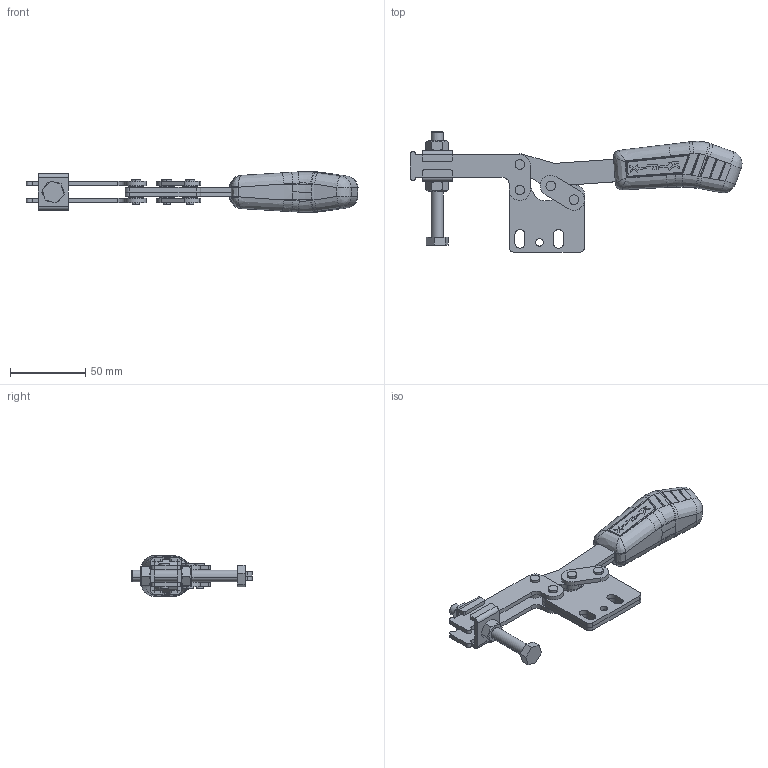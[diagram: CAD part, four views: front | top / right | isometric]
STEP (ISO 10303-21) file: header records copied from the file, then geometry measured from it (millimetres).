
FILE_DESCRIPTION (( 'STEP AP203' ), '1' );
FILE_NAME ('KF-523 R.STEP', '2014-08-18T13:03:48', ( 'Ricardo' ), ( '' ), 'SwSTEP 2.0', 'SolidWorks 2013', '' );
FILE_SCHEMA (( 'CONFIG_CONTROL_DESIGN' ));
Length unit declared in the file: millimetre
Products named in the file (12): KF-523 R; 03.13046; 08.10071; 14.10010; 11.50002; 12.50003; 17.50007; 02.11071_Direita; 3670000031; 02.11071_Esquerda; 07.60001; 01.10158
Assembly tree (26 placements, depth 2):
  KF-523 R
    02.11071_Direita
    02.11071_Esquerda
    01.10158  x2
    03.13046  x2
    08.10071  x2
    14.10010  x2
    11.50002  x2
    12.50003
    17.50007  x8
    3670000031  x4
    07.60001
Bounding box: 220.63 x 79.88 x 27.02 mm (x, y, z)
Volume: 88283.3 mm3; surface area: 48928.2 mm2
Topology: 26 solids, 26 shells, 718 faces, 1767 edges, 1120 vertices
Faces by surface type: plane 272, cylinder 231, bspline 126, cone 86, torus 3
Entity records: 20822 total; most frequent: CARTESIAN_POINT 8009, ORIENTED_EDGE 2610, DIRECTION 1881, EDGE_CURVE 1305, VERTEX_POINT 840, AXIS2_PLACEMENT_3D 666, EDGE_LOOP 567, VECTOR 549
